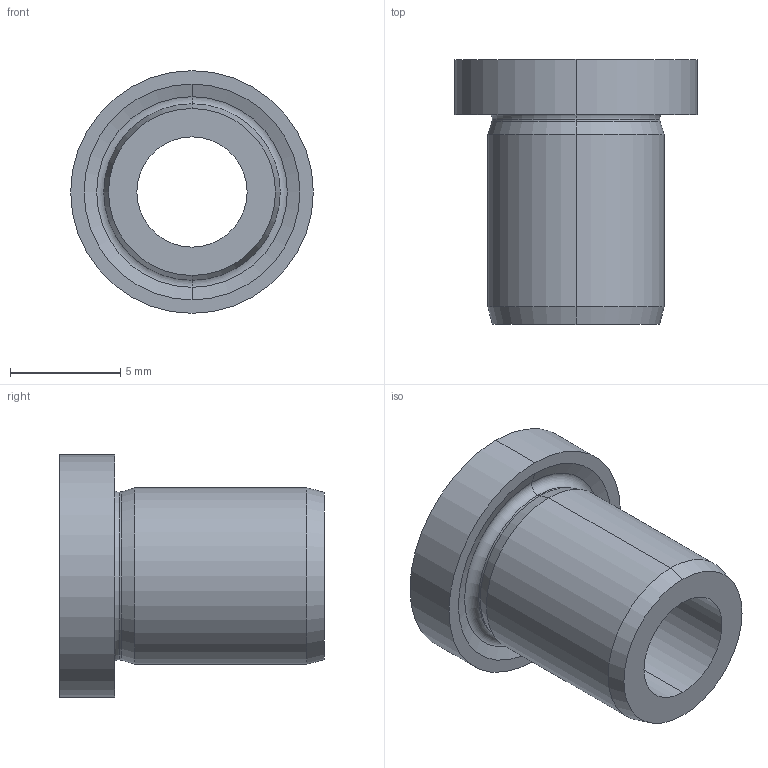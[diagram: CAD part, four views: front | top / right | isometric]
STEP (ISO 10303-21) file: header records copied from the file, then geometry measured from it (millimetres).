
FILE_DESCRIPTION (( 'STEP AP214' ), '1' );
FILE_NAME ('172-B5-12-A.step', '2024-10-17T05:07:42', ( '' ), ( '' ), 'SwSTEP 2.0', 'SolidWorks 2022', '' );
FILE_SCHEMA (( 'AUTOMOTIVE_DESIGN' ));
Length unit declared in the file: millimetre
Products named in the file (1): 172-B5-12-A
Bounding box: 11 x 12 x 11 mm (x, y, z)
Volume: 471 mm3; surface area: 664.2 mm2
Topology: 1 solids, 1 shells, 21 faces, 42 edges, 24 vertices
Faces by surface type: torus 6, cone 6, cylinder 6, plane 3
Entity records: 632 total; most frequent: DIRECTION 116, CARTESIAN_POINT 88, ORIENTED_EDGE 84, AXIS2_PLACEMENT_3D 52, EDGE_CURVE 42, CIRCLE 30, VERTEX_POINT 24, EDGE_LOOP 24
